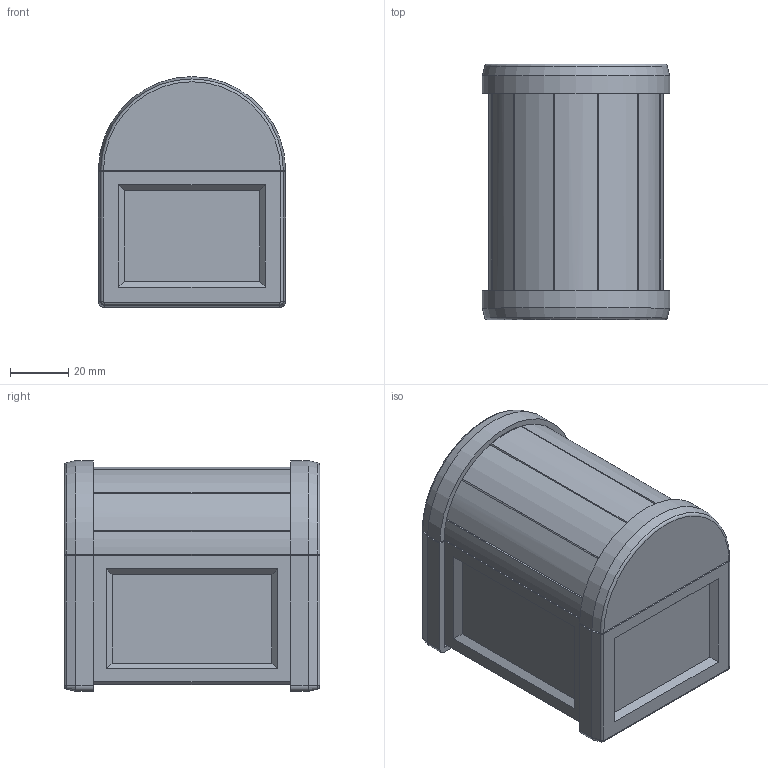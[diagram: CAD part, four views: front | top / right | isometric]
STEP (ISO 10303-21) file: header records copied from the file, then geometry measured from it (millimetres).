
FILE_DESCRIPTION(/* description */ (''),/* implementation_level */ '2;1');
FILE_NAME(/* name */ (''),/* time_stamp */ (''),/* author */ (''),/* organization */ (''),/* preprocessor_version */ 'ST-DEVELOPER v18.1',/* originating_system */ 'Autodesk Translation Framework v10.14.0.1471',/* authorisation */ '');
FILE_SCHEMA (('AUTOMOTIVE_DESIGN { 1 0 10303 214 3 1 1 }'));
Length unit declared in the file: millimetre
Products named in the file (1): Easy Print Treasure Chest Puzzle
Bounding box: 64.5 x 88 x 79.5 mm (x, y, z)
Volume: 176712.9 mm3; surface area: 99321 mm2
Topology: 10 solids, 10 shells, 465 faces, 1217 edges, 777 vertices
Faces by surface type: plane 360, cylinder 57, cone 42, bspline 4, torus 2
Full cylindrical faces by diameter (mm): 2 x3
Entity records: 14188 total; most frequent: CARTESIAN_POINT 2684, ORIENTED_EDGE 2424, DIRECTION 2269, EDGE_CURVE 1212, LINE 985, VECTOR 985, VERTEX_POINT 777, AXIS2_PLACEMENT_3D 642
